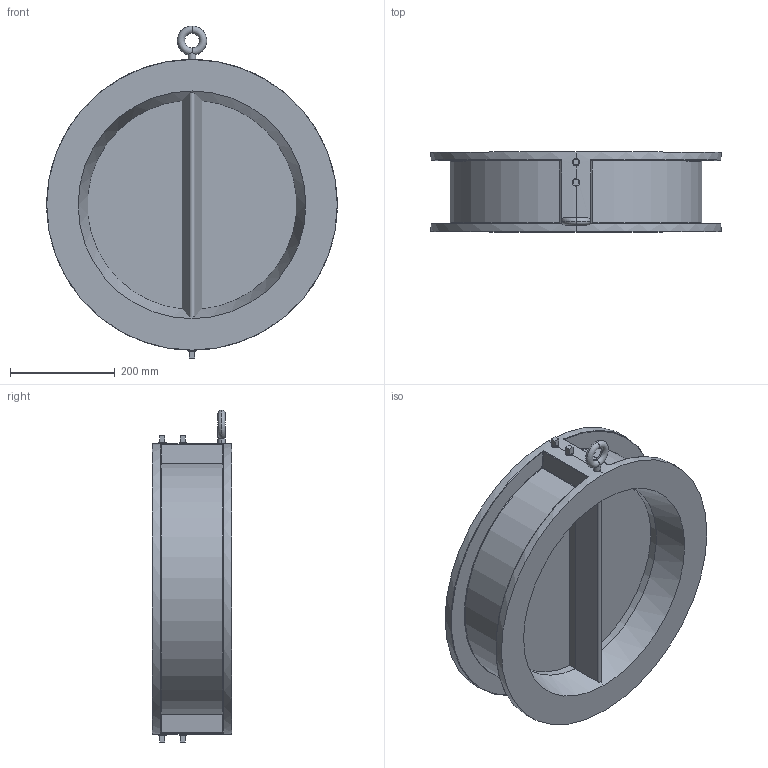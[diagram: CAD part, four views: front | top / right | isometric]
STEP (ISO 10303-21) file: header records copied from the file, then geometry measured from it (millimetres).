
FILE_DESCRIPTION (( 'STEP AP203' ), '1' );
FILE_NAME ('D6_DN450.STEP', '2012-09-21T13:09:09', ( 'luca.saino' ), ( 'Hewlett-Packard Company' ), 'SwSTEP 2.0', 'SolidWorks 2012', '' );
FILE_SCHEMA (( 'CONFIG_CONTROL_DESIGN' ));
Length unit declared in the file: millimetre
Products named in the file (1): D6_DN450
Bounding box: 555 x 152 x 634 mm (x, y, z)
Volume: 10420502.6 mm3; surface area: 1152114.8 mm2
Topology: 1 solids, 1 shells, 168 faces, 417 edges, 243 vertices
Faces by surface type: plane 83, cylinder 55, torus 12, sphere 8, bspline 8, cone 2
Entity records: 6262 total; most frequent: CARTESIAN_POINT 2315, ORIENTED_EDGE 818, DIRECTION 797, EDGE_CURVE 409, AXIS2_PLACEMENT_3D 295, VERTEX_POINT 243, LINE 207, VECTOR 207
